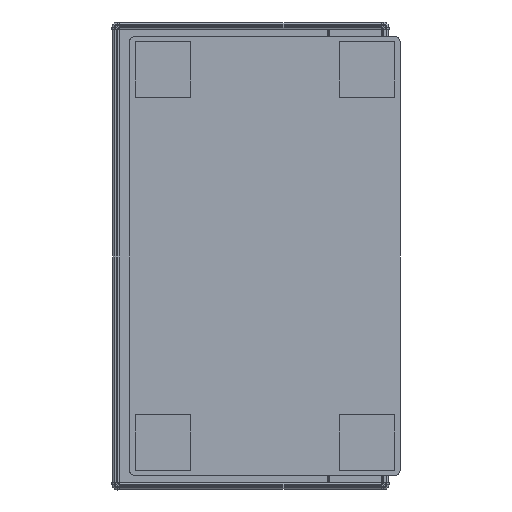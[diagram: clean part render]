
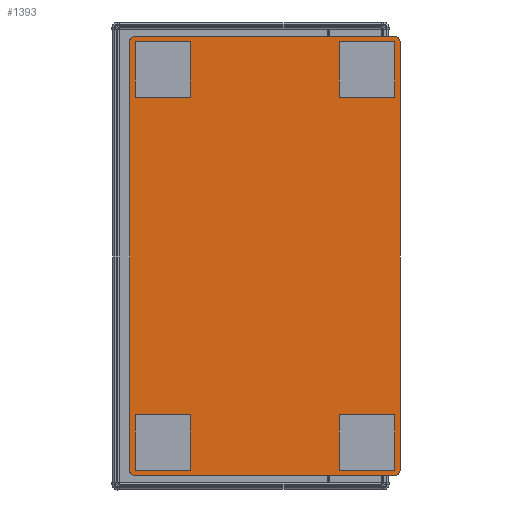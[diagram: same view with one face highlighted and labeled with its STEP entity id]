
A CAD part, front view. The second image highlights one B-rep face of the part: STEP entity #1393.
In plain terms, the highlighted planar face has unit normal (0, -1, 0).
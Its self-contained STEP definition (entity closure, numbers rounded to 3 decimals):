
#1047=CIRCLE('',#13895,5.);
#1048=CIRCLE('',#13896,5.);
#1049=CIRCLE('',#13897,5.);
#1050=CIRCLE('',#13898,5.);
#1344=FACE_BOUND('',#3204,.T.);
#1345=FACE_BOUND('',#3205,.T.);
#1346=FACE_BOUND('',#3206,.T.);
#1347=FACE_BOUND('',#3207,.T.);
#1348=FACE_BOUND('',#3208,.T.);
#1393=ADVANCED_FACE('',(#1344,#1345,#1346,#1347,#1348),#2133,.T.);
#2133=PLANE('',#13899);
#3204=EDGE_LOOP('',(#3980,#3981,#3982,#3983));
#3205=EDGE_LOOP('',(#3984,#3985,#3986,#3987));
#3206=EDGE_LOOP('',(#3988,#3989,#3990,#3991));
#3207=EDGE_LOOP('',(#3992,#3993,#3994,#3995));
#3208=EDGE_LOOP('',(#3996,#3997,#3998,#3999,#4000,#4001,#4002,#4003));
#3980=ORIENTED_EDGE('',*,*,#9417,.F.);
#3981=ORIENTED_EDGE('',*,*,#9418,.F.);
#3982=ORIENTED_EDGE('',*,*,#9419,.F.);
#3983=ORIENTED_EDGE('',*,*,#9420,.F.);
#3984=ORIENTED_EDGE('',*,*,#9421,.F.);
#3985=ORIENTED_EDGE('',*,*,#9422,.F.);
#3986=ORIENTED_EDGE('',*,*,#9423,.F.);
#3987=ORIENTED_EDGE('',*,*,#9424,.F.);
#3988=ORIENTED_EDGE('',*,*,#9425,.F.);
#3989=ORIENTED_EDGE('',*,*,#9426,.F.);
#3990=ORIENTED_EDGE('',*,*,#9427,.F.);
#3991=ORIENTED_EDGE('',*,*,#9428,.F.);
#3992=ORIENTED_EDGE('',*,*,#9429,.F.);
#3993=ORIENTED_EDGE('',*,*,#9430,.F.);
#3994=ORIENTED_EDGE('',*,*,#9431,.F.);
#3995=ORIENTED_EDGE('',*,*,#9432,.F.);
#3996=ORIENTED_EDGE('',*,*,#9414,.T.);
#3997=ORIENTED_EDGE('',*,*,#9433,.T.);
#3998=ORIENTED_EDGE('',*,*,#9434,.F.);
#3999=ORIENTED_EDGE('',*,*,#9435,.T.);
#4000=ORIENTED_EDGE('',*,*,#9436,.T.);
#4001=ORIENTED_EDGE('',*,*,#9437,.T.);
#4002=ORIENTED_EDGE('',*,*,#9438,.T.);
#4003=ORIENTED_EDGE('',*,*,#9439,.T.);
#8101=VERTEX_POINT('',#19140);
#8102=VERTEX_POINT('',#19142);
#8104=VERTEX_POINT('',#19148);
#8105=VERTEX_POINT('',#19149);
#8106=VERTEX_POINT('',#19151);
#8107=VERTEX_POINT('',#19153);
#8108=VERTEX_POINT('',#19156);
#8109=VERTEX_POINT('',#19157);
#8110=VERTEX_POINT('',#19159);
#8111=VERTEX_POINT('',#19161);
#8112=VERTEX_POINT('',#19164);
#8113=VERTEX_POINT('',#19165);
#8114=VERTEX_POINT('',#19167);
#8115=VERTEX_POINT('',#19169);
#8116=VERTEX_POINT('',#19172);
#8117=VERTEX_POINT('',#19173);
#8118=VERTEX_POINT('',#19175);
#8119=VERTEX_POINT('',#19177);
#8120=VERTEX_POINT('',#19180);
#8121=VERTEX_POINT('',#19182);
#8122=VERTEX_POINT('',#19184);
#8123=VERTEX_POINT('',#19186);
#8124=VERTEX_POINT('',#19188);
#8125=VERTEX_POINT('',#19190);
#9414=EDGE_CURVE('',#8102,#8101,#11476,.T.);
#9417=EDGE_CURVE('',#8104,#8105,#11479,.T.);
#9418=EDGE_CURVE('',#8106,#8104,#11480,.T.);
#9419=EDGE_CURVE('',#8107,#8106,#11481,.T.);
#9420=EDGE_CURVE('',#8105,#8107,#11482,.T.);
#9421=EDGE_CURVE('',#8108,#8109,#11483,.T.);
#9422=EDGE_CURVE('',#8110,#8108,#11484,.T.);
#9423=EDGE_CURVE('',#8111,#8110,#11485,.T.);
#9424=EDGE_CURVE('',#8109,#8111,#11486,.T.);
#9425=EDGE_CURVE('',#8112,#8113,#11487,.T.);
#9426=EDGE_CURVE('',#8114,#8112,#11488,.T.);
#9427=EDGE_CURVE('',#8115,#8114,#11489,.T.);
#9428=EDGE_CURVE('',#8113,#8115,#11490,.T.);
#9429=EDGE_CURVE('',#8116,#8117,#11491,.T.);
#9430=EDGE_CURVE('',#8118,#8116,#11492,.T.);
#9431=EDGE_CURVE('',#8119,#8118,#11493,.T.);
#9432=EDGE_CURVE('',#8117,#8119,#11494,.T.);
#9433=EDGE_CURVE('',#8101,#8120,#1047,.T.);
#9434=EDGE_CURVE('',#8121,#8120,#11495,.T.);
#9435=EDGE_CURVE('',#8121,#8122,#1048,.T.);
#9436=EDGE_CURVE('',#8122,#8123,#11496,.T.);
#9437=EDGE_CURVE('',#8123,#8124,#1049,.T.);
#9438=EDGE_CURVE('',#8124,#8125,#11497,.T.);
#9439=EDGE_CURVE('',#8125,#8102,#1050,.T.);
#11476=LINE('',#19141,#12685);
#11479=LINE('',#19147,#12688);
#11480=LINE('',#19150,#12689);
#11481=LINE('',#19152,#12690);
#11482=LINE('',#19154,#12691);
#11483=LINE('',#19155,#12692);
#11484=LINE('',#19158,#12693);
#11485=LINE('',#19160,#12694);
#11486=LINE('',#19162,#12695);
#11487=LINE('',#19163,#12696);
#11488=LINE('',#19166,#12697);
#11489=LINE('',#19168,#12698);
#11490=LINE('',#19170,#12699);
#11491=LINE('',#19171,#12700);
#11492=LINE('',#19174,#12701);
#11493=LINE('',#19176,#12702);
#11494=LINE('',#19178,#12703);
#11495=LINE('',#19181,#12704);
#11496=LINE('',#19185,#12705);
#11497=LINE('',#19189,#12706);
#12685=VECTOR('',#15241,1.);
#12688=VECTOR('',#15246,1.);
#12689=VECTOR('',#15247,1.);
#12690=VECTOR('',#15248,1.);
#12691=VECTOR('',#15249,1.);
#12692=VECTOR('',#15250,1.);
#12693=VECTOR('',#15251,1.);
#12694=VECTOR('',#15252,1.);
#12695=VECTOR('',#15253,1.);
#12696=VECTOR('',#15254,1.);
#12697=VECTOR('',#15255,1.);
#12698=VECTOR('',#15256,1.);
#12699=VECTOR('',#15257,1.);
#12700=VECTOR('',#15258,1.);
#12701=VECTOR('',#15259,1.);
#12702=VECTOR('',#15260,1.);
#12703=VECTOR('',#15261,1.);
#12704=VECTOR('',#15264,1.);
#12705=VECTOR('',#15267,1.);
#12706=VECTOR('',#15270,1.);
#13895=AXIS2_PLACEMENT_3D('',#19179,#15262,#15263);
#13896=AXIS2_PLACEMENT_3D('',#19183,#15265,#15266);
#13897=AXIS2_PLACEMENT_3D('',#19187,#15268,#15269);
#13898=AXIS2_PLACEMENT_3D('',#19191,#15271,#15272);
#13899=AXIS2_PLACEMENT_3D('',#19192,#15273,#15274);
#15241=DIRECTION('',(0.,0.,-1.));
#15246=DIRECTION('',(0.,0.,1.));
#15247=DIRECTION('',(1.,0.,0.));
#15248=DIRECTION('',(0.,0.,-1.));
#15249=DIRECTION('',(-1.,0.,0.));
#15250=DIRECTION('',(0.,0.,1.));
#15251=DIRECTION('',(1.,0.,0.));
#15252=DIRECTION('',(0.,0.,-1.));
#15253=DIRECTION('',(-1.,0.,0.));
#15254=DIRECTION('',(0.,0.,1.));
#15255=DIRECTION('',(1.,0.,0.));
#15256=DIRECTION('',(0.,0.,-1.));
#15257=DIRECTION('',(-1.,0.,0.));
#15258=DIRECTION('',(0.,0.,1.));
#15259=DIRECTION('',(1.,0.,0.));
#15260=DIRECTION('',(0.,0.,-1.));
#15261=DIRECTION('',(-1.,0.,0.));
#15262=DIRECTION('',(0.,-1.,0.));
#15263=DIRECTION('',(0.,0.,-1.));
#15264=DIRECTION('',(-1.,0.,0.));
#15265=DIRECTION('',(0.,-1.,0.));
#15266=DIRECTION('',(0.,0.,-1.));
#15267=DIRECTION('',(0.,0.,1.));
#15268=DIRECTION('',(0.,-1.,0.));
#15269=DIRECTION('',(0.,0.,-1.));
#15270=DIRECTION('',(-1.,0.,0.));
#15271=DIRECTION('',(0.,-1.,0.));
#15272=DIRECTION('',(0.,0.,-1.));
#15273=DIRECTION('',(0.,-1.,0.));
#15274=DIRECTION('',(1.,0.,0.));
#19140=CARTESIAN_POINT('',(-109.5,-1862.85,50.));
#19141=CARTESIAN_POINT('',(-109.5,-1862.85,244.));
#19142=CARTESIAN_POINT('',(-109.5,-1862.85,438.));
#19147=CARTESIAN_POINT('',(-54.5,-1862.85,75.));
#19148=CARTESIAN_POINT('',(-54.5,-1862.85,50.));
#19149=CARTESIAN_POINT('',(-54.5,-1862.85,100.));
#19150=CARTESIAN_POINT('',(-79.5,-1862.85,50.));
#19151=CARTESIAN_POINT('',(-104.5,-1862.85,50.));
#19152=CARTESIAN_POINT('',(-104.5,-1862.85,75.));
#19153=CARTESIAN_POINT('',(-104.5,-1862.85,100.));
#19154=CARTESIAN_POINT('',(-79.5,-1862.85,100.));
#19155=CARTESIAN_POINT('',(130.5,-1862.85,413.));
#19156=CARTESIAN_POINT('',(130.5,-1862.85,388.));
#19157=CARTESIAN_POINT('',(130.5,-1862.85,438.));
#19158=CARTESIAN_POINT('',(105.5,-1862.85,388.));
#19159=CARTESIAN_POINT('',(80.5,-1862.85,388.));
#19160=CARTESIAN_POINT('',(80.5,-1862.85,413.));
#19161=CARTESIAN_POINT('',(80.5,-1862.85,438.));
#19162=CARTESIAN_POINT('',(105.5,-1862.85,438.));
#19163=CARTESIAN_POINT('',(-54.5,-1862.85,413.));
#19164=CARTESIAN_POINT('',(-54.5,-1862.85,388.));
#19165=CARTESIAN_POINT('',(-54.5,-1862.85,438.));
#19166=CARTESIAN_POINT('',(-79.5,-1862.85,388.));
#19167=CARTESIAN_POINT('',(-104.5,-1862.85,388.));
#19168=CARTESIAN_POINT('',(-104.5,-1862.85,413.));
#19169=CARTESIAN_POINT('',(-104.5,-1862.85,438.));
#19170=CARTESIAN_POINT('',(-79.5,-1862.85,438.));
#19171=CARTESIAN_POINT('',(130.5,-1862.85,75.));
#19172=CARTESIAN_POINT('',(130.5,-1862.85,50.));
#19173=CARTESIAN_POINT('',(130.5,-1862.85,100.));
#19174=CARTESIAN_POINT('',(105.5,-1862.85,50.));
#19175=CARTESIAN_POINT('',(80.5,-1862.85,50.));
#19176=CARTESIAN_POINT('',(80.5,-1862.85,75.));
#19177=CARTESIAN_POINT('',(80.5,-1862.85,100.));
#19178=CARTESIAN_POINT('',(105.5,-1862.85,100.));
#19179=CARTESIAN_POINT('',(-104.5,-1862.85,50.));
#19180=CARTESIAN_POINT('',(-104.5,-1862.85,45.));
#19181=CARTESIAN_POINT('',(140.,-1862.85,45.));
#19182=CARTESIAN_POINT('',(130.5,-1862.85,45.));
#19183=CARTESIAN_POINT('',(130.5,-1862.85,50.));
#19184=CARTESIAN_POINT('',(135.5,-1862.85,50.));
#19185=CARTESIAN_POINT('',(135.5,-1862.85,244.));
#19186=CARTESIAN_POINT('',(135.5,-1862.85,438.));
#19187=CARTESIAN_POINT('',(130.5,-1862.85,438.));
#19188=CARTESIAN_POINT('',(130.5,-1862.85,443.));
#19189=CARTESIAN_POINT('',(140.,-1862.85,443.));
#19190=CARTESIAN_POINT('',(-104.5,-1862.85,443.));
#19191=CARTESIAN_POINT('',(-104.5,-1862.85,438.));
#19192=CARTESIAN_POINT('',(140.,-1862.85,244.));
